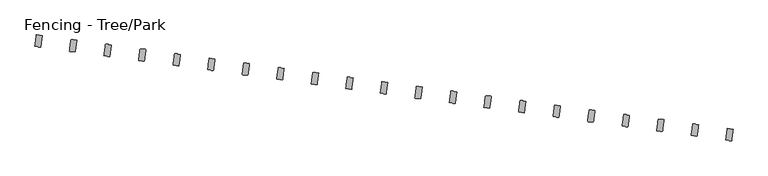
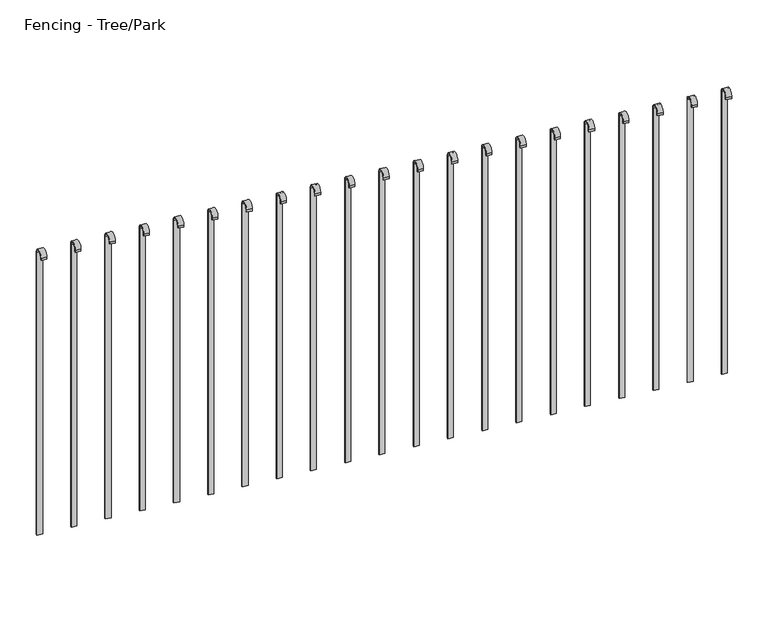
"""IFC4 building model written with IfcOpenShell, lengths in millimetres: railing geometry, Fencing - Tree/Park."""

import ifcopenshell
import ifcopenshell.guid

model = None  # the IFC model being written
_history = None  # IfcOwnerHistory: only IFC2X3 demands one
_inside = {}  # id of a spatial element -> (the spatial element, [elements in it])
_under = {}  # id of a project, library or spatial element -> (it, [spatial elements below it])
_declared = {}  # id of a project -> (the project, [libraries it declares])
_typed = {}  # id of a type object -> (the type object, [elements of that type])
_made_of = {}  # id of a material, layer set ... -> (it, [elements and type objects made of it])


def new_model(schema):
    """Start an empty IFC model of exactly this schema.

    Asked for "IFC4X3", IfcOpenShell would pick the latest addendum, in which some entities
    have other attributes; the version numbers below select the first issue.
    IFC2X3 requires an IfcOwnerHistory on every rooted entity: one is made here for all.
    """
    global model, _history
    if schema == "IFC4X3":
        model = ifcopenshell.file(schema_version=(4, 3, 0, 0))
    else:
        model = ifcopenshell.file(schema=schema)
    _inside.clear()
    _under.clear()
    _declared.clear()
    _typed.clear()
    _made_of.clear()
    _history = None
    if model.schema == "IFC2X3":
        org = make("IfcOrganization", Name="unknown")
        user = make(
            "IfcPersonAndOrganization",
            ThePerson=make("IfcPerson", FamilyName="unknown"),
            TheOrganization=org,
        )
        app = make(
            "IfcApplication",
            ApplicationDeveloper=org,
            Version="unknown",
            ApplicationFullName="unknown",
            ApplicationIdentifier="unknown",
        )
        _history = make(
            "IfcOwnerHistory",
            OwningUser=user,
            OwningApplication=app,
            ChangeAction="ADDED",
            CreationDate=0,
        )
    return model


def make(cls, **values):
    """One entity of the class cls with the attributes given. An attribute that is None is left unset."""
    return model.create_entity(
        cls, **{name: value for name, value in values.items() if value is not None}
    )


def rooted(cls, **values):
    """An entity with a GlobalId (a new one), such as an element, a storey or a relation."""
    return make(cls, GlobalId=ifcopenshell.guid.new(), OwnerHistory=_history, **values)


def si_unit(unit_type, name, prefix=None):
    """IfcSIUnit, for example si_unit("LENGTHUNIT", "METRE", prefix="MILLI")."""
    return make("IfcSIUnit", UnitType=unit_type, Prefix=prefix, Name=name)


def assignment(units):
    """IfcUnitAssignment: the units of a project."""
    return None if units is None else make("IfcUnitAssignment", Units=units)


def point(xyz):
    """IfcCartesianPoint."""
    return None if xyz is None else make("IfcCartesianPoint", Coordinates=xyz)


def direction(xyz):
    """IfcDirection."""
    return None if xyz is None else make("IfcDirection", DirectionRatios=xyz)


def frame(location, z_axis=None, x_axis=None):
    """IfcAxis2Placement3D, a coordinate frame: its origin and axes. An axis left out is left unset."""
    return make(
        "IfcAxis2Placement3D",
        Location=point(location),
        Axis=direction(z_axis),
        RefDirection=direction(x_axis),
    )


def frame_2d(location, x_axis=None):
    """IfcAxis2Placement2D, a coordinate frame in the plane: its origin and x axis."""
    return make(
        "IfcAxis2Placement2D", Location=point(location), RefDirection=direction(x_axis)
    )


def origin():
    """The frame at (0, 0, 0) with its axes left unset."""
    return frame((0.0, 0.0, 0.0))


def place(relative_to, where):
    """IfcLocalPlacement: puts the frame where relative to a parent placement (None: the world)."""
    return make(
        "IfcLocalPlacement", PlacementRelTo=relative_to, RelativePlacement=where
    )


def context(
    kind, dimensions, precision=None, world=None, true_north=None, identifier=None
):
    """IfcGeometricRepresentationContext, for example the 3D "Model" context."""
    return make(
        "IfcGeometricRepresentationContext",
        ContextIdentifier=identifier,
        ContextType=kind,
        CoordinateSpaceDimension=dimensions,
        Precision=precision,
        WorldCoordinateSystem=world,
        TrueNorth=true_north,
    )


def project(units=None, contexts=None):
    """IfcProject with its units and contexts."""
    return rooted(
        "IfcProject",
        Name="project",
        RepresentationContexts=contexts,
        UnitsInContext=assignment(units),
    )


def spatial(cls, under=None, at=None, **own):
    """A site, building, storey or space (cls), placed at a placement, below another one or the project."""
    s = rooted(cls, ObjectPlacement=at, **own)
    if under is not None:
        _under.setdefault(under.id(), (under, []))[1].append(s)
    return s


def polyline(points):
    """IfcPolyline through the points."""
    return make("IfcPolyline", Points=[point(p) for p in points])


def circle_curve(where, radius):
    """IfcCircle in the frame where."""
    return make("IfcCircle", Position=where, Radius=radius)


def trimmed(basis, trim1, trim2, sense, master):
    """IfcTrimmedCurve: the piece of a basis curve between two trims."""
    return make(
        "IfcTrimmedCurve",
        BasisCurve=basis,
        Trim1=trim1,
        Trim2=trim2,
        SenseAgreement=sense,
        MasterRepresentation=master,
    )


def segment(curve, same_sense, transition):
    """IfcCompositeCurveSegment."""
    return make(
        "IfcCompositeCurveSegment",
        Transition=transition,
        SameSense=same_sense,
        ParentCurve=curve,
    )


def composite_curve(segments, self_intersect=None):
    """IfcCompositeCurve: segments joined end to end."""
    return make("IfcCompositeCurve", Segments=segments, SelfIntersect=self_intersect)


def outline(outer, holes=None, kind="AREA"):
    """IfcArbitraryClosedProfileDef: a profile drawn as a closed curve; with holes, ...WithVoids."""
    if holes is None:
        return make("IfcArbitraryClosedProfileDef", ProfileType=kind, OuterCurve=outer)
    return make(
        "IfcArbitraryProfileDefWithVoids",
        ProfileType=kind,
        OuterCurve=outer,
        InnerCurves=holes,
    )


def extrude(swept, where, along, depth):
    """IfcExtrudedAreaSolid: the profile swept, set in the frame where, extruded along a direction by depth."""
    return make(
        "IfcExtrudedAreaSolid",
        SweptArea=swept,
        Position=where,
        ExtrudedDirection=direction(along),
        Depth=depth,
    )


def shape(context_of_items, identifier, shape_type, items):
    """IfcShapeRepresentation: the items that make up one representation, for example the "Body"."""
    return make(
        "IfcShapeRepresentation",
        ContextOfItems=context_of_items,
        RepresentationIdentifier=identifier,
        RepresentationType=shape_type,
        Items=items,
    )


def source(mapping_origin, context_of_items, identifier, shape_type, items):
    """IfcRepresentationMap: a shape defined once, which mapped items show again and again."""
    return make(
        "IfcRepresentationMap",
        MappingOrigin=mapping_origin,
        MappedRepresentation=shape(context_of_items, identifier, shape_type, items),
    )


def transform(
    local_origin,
    x_axis=None,
    y_axis=None,
    z_axis=None,
    scale=None,
    scale2=None,
    scale3=None,
    uniform=True,
):
    """IfcCartesianTransformationOperator3D, or its non-uniform kind. x_axis, y_axis, z_axis: its Axis1, 2, 3."""
    if uniform:
        return make(
            "IfcCartesianTransformationOperator3D",
            Axis1=direction(x_axis),
            Axis2=direction(y_axis),
            LocalOrigin=point(local_origin),
            Scale=scale,
            Axis3=direction(z_axis),
        )
    return make(
        "IfcCartesianTransformationOperator3DnonUniform",
        Axis1=direction(x_axis),
        Axis2=direction(y_axis),
        LocalOrigin=point(local_origin),
        Scale=scale,
        Axis3=direction(z_axis),
        Scale2=scale2,
        Scale3=scale3,
    )


def mapped(mapping_source, mapping_target):
    """IfcMappedItem: shows the shape of a source again, moved by a transform."""
    return make(
        "IfcMappedItem", MappingSource=mapping_source, MappingTarget=mapping_target
    )


def made_of(thing, what):
    """Note that an element or type object is made of a material, layer set ...; save() writes the relation."""
    if what is not None:
        _made_of.setdefault(what.id(), (what, []))[1].append(thing)
    return thing


def element(
    cls,
    number,
    at=None,
    inside=None,
    cuts=None,
    type_object=None,
    material=None,
    context=None,
    identifier="Body",
    shape_type=None,
    held_by="IfcProductDefinitionShape",
    body=None,
    shapes=None,
    **own,
):
    """One element of the class cls, such as IfcWall. Its Tag is "e" and its number.

    at: its placement. inside: the storey or other place that contains it. cuts: it is an
    opening in that element (IfcRelVoidsElement). A single representation is given by context,
    identifier, shape_type and body (its items); several are given by shapes. held_by: the class
    of the entity that holds the representations. save() writes the other relations.
    """
    e = rooted(cls, Tag="e%d" % number, ObjectPlacement=at, **own)
    if body is not None:
        shapes = [shape(context, identifier, shape_type, body)]
    if shapes is not None:
        e.Representation = make(held_by, Representations=shapes)
    if inside is not None:
        _inside.setdefault(inside.id(), (inside, []))[1].append(e)
    if cuts is not None:
        rooted(
            "IfcRelVoidsElement", RelatingBuildingElement=cuts, RelatedOpeningElement=e
        )
    if type_object is not None:
        _typed.setdefault(type_object.id(), (type_object, []))[1].append(e)
    return made_of(e, material)


def aggregate(whole, parts):
    """IfcRelAggregates: a whole, such as a stair, and the parts it consists of."""
    return rooted("IfcRelAggregates", RelatingObject=whole, RelatedObjects=parts)


def save(model, path):
    """Write the relations noted so far, then the file.

    IfcRelAggregates (storeys below a building ...), IfcRelContainedInSpatialStructure (elements
    in a storey), IfcRelDefinesByType, IfcRelAssociatesMaterial and IfcRelDeclares: one each for
    every whole, place, type object, material and project.
    """
    for whole, parts in _under.values():
        aggregate(whole, parts)
    for where, things in _inside.values():
        rooted(
            "IfcRelContainedInSpatialStructure",
            RelatedElements=things,
            RelatingStructure=where,
        )
    for kind, things in _typed.values():
        rooted("IfcRelDefinesByType", RelatedObjects=things, RelatingType=kind)
    for what, things in _made_of.values():
        rooted("IfcRelAssociatesMaterial", RelatedObjects=things, RelatingMaterial=what)
    for by, libraries in _declared.values():
        rooted("IfcRelDeclares", RelatingContext=by, RelatedDefinitions=libraries)
    model.write(path)


def fencing_tree_park_3937f9b8(model_context):
    return source(origin(), model_context, "Body", "SweptSolid", [
        extrude(outline(composite_curve([segment(trimmed(circle_curve(frame_2d((1400.0, -25.0000001)), 25.0), [point((1400.0, 0.0))], [point((1400.0, -50.0))], False, "CARTESIAN"), True, "CONTINUOUS"), segment(polyline([(1400.0, -50.0), (1390.0, -50.0), (1390.0, -45.0), (1400.0, -45.0)]), True, "CONTINUOUS"), segment(trimmed(circle_curve(frame_2d((1400.0, -25.0000001)), 20.0), [point((1400.0, -45.0))], [point((1400.0, -5.0))], True, "CARTESIAN"), True, "CONTINUOUS"), segment(polyline([(1400.0, -5.0), (0.0, -5.0), (0.0, 0.0), (1400.0, 0.0)]), True, "CONTINUOUS")], self_intersect=False)), frame((-9960.9370364, 12050.828764, 2850.0), z_axis=(-0.9908613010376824, 0.13488469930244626, 0.0), x_axis=(0.0, 0.0, 1.0)), (0.0, 0.0, 1.0), 25.0),
        extrude(outline(composite_curve([segment(trimmed(circle_curve(frame_2d((1400.0, -25.0)), 25.0), [point((1400.0, 0.0))], [point((1400.0, -50.0000001))], False, "CARTESIAN"), True, "CONTINUOUS"), segment(polyline([(1400.0, -50.0000001), (1390.0, -50.0000001), (1390.0, -45.0000001), (1400.0, -45.0000001)]), True, "CONTINUOUS"), segment(trimmed(circle_curve(frame_2d((1400.0, -25.0)), 20.0), [point((1400.0, -45.0000001))], [point((1400.0, -5.0))], True, "CARTESIAN"), True, "CONTINUOUS"), segment(polyline([(1400.0, -5.0), (0.0, -5.0), (0.0, 0.0), (1400.0, 0.0)]), True, "CONTINUOUS")], self_intersect=False)), frame((-9812.3078412, 12030.5960591, 2850.0), z_axis=(-0.9908613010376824, 0.13488469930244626, 0.0), x_axis=(0.0, 0.0, 1.0)), (0.0, 0.0, 1.0), 25.0),
        extrude(outline(composite_curve([segment(trimmed(circle_curve(frame_2d((1400.0, -25.0)), 25.0), [point((1400.0, 0.0))], [point((1400.0, -50.0000001))], False, "CARTESIAN"), True, "CONTINUOUS"), segment(polyline([(1400.0, -50.0000001), (1390.0, -50.0000001), (1390.0, -45.0000001), (1400.0, -45.0000001)]), True, "CONTINUOUS"), segment(trimmed(circle_curve(frame_2d((1400.0, -25.0)), 20.0), [point((1400.0, -45.0000001))], [point((1400.0, -5.0))], True, "CARTESIAN"), True, "CONTINUOUS"), segment(polyline([(1400.0, -5.0), (0.0, -5.0), (0.0, 0.0), (1400.0, 0.0)]), True, "CONTINUOUS")], self_intersect=False)), frame((-9663.678646, 12010.3633542, 2850.0), z_axis=(-0.9908613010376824, 0.13488469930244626, 0.0), x_axis=(0.0, 0.0, 1.0)), (0.0, 0.0, 1.0), 25.0),
        extrude(outline(composite_curve([segment(trimmed(circle_curve(frame_2d((1400.0, -25.0)), 25.0), [point((1400.0, 0.0))], [point((1400.0, -50.0000001))], False, "CARTESIAN"), True, "CONTINUOUS"), segment(polyline([(1400.0, -50.0000001), (1390.0, -50.0000001), (1390.0, -45.0000001), (1400.0, -45.0000001)]), True, "CONTINUOUS"), segment(trimmed(circle_curve(frame_2d((1400.0, -25.0)), 20.0), [point((1400.0, -45.0000001))], [point((1400.0, -5.0))], True, "CARTESIAN"), True, "CONTINUOUS"), segment(polyline([(1400.0, -5.0), (0.0, -5.0), (0.0, 0.0), (1400.0, 0.0)]), True, "CONTINUOUS")], self_intersect=False)), frame((-9515.0494509, 11990.1306493, 2850.0), z_axis=(-0.9908613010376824, 0.13488469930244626, 0.0), x_axis=(0.0, 0.0, 1.0)), (0.0, 0.0, 1.0), 25.0),
        extrude(outline(composite_curve([segment(trimmed(circle_curve(frame_2d((1400.0, -25.0)), 25.0), [point((1400.0, 0.0))], [point((1400.0, -50.0000001))], False, "CARTESIAN"), True, "CONTINUOUS"), segment(polyline([(1400.0, -50.0000001), (1390.0, -50.0000001), (1390.0, -45.0000001), (1400.0, -45.0000001)]), True, "CONTINUOUS"), segment(trimmed(circle_curve(frame_2d((1400.0, -25.0)), 20.0), [point((1400.0, -45.0000001))], [point((1400.0, -5.0))], True, "CARTESIAN"), True, "CONTINUOUS"), segment(polyline([(1400.0, -5.0), (0.0, -5.0), (0.0, 0.0), (1400.0, 0.0)]), True, "CONTINUOUS")], self_intersect=False)), frame((-9366.4202557, 11969.8979444, 2850.0), z_axis=(-0.9908613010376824, 0.13488469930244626, 0.0), x_axis=(0.0, 0.0, 1.0)), (0.0, 0.0, 1.0), 25.0),
        extrude(outline(composite_curve([segment(trimmed(circle_curve(frame_2d((1400.0, -25.0)), 25.0), [point((1400.0, 0.0))], [point((1400.0, -50.0))], False, "CARTESIAN"), True, "CONTINUOUS"), segment(polyline([(1400.0, -50.0), (1390.0, -50.0), (1390.0, -45.0), (1400.0, -45.0)]), True, "CONTINUOUS"), segment(trimmed(circle_curve(frame_2d((1400.0, -25.0)), 20.0), [point((1400.0, -45.0))], [point((1400.0, -5.0))], True, "CARTESIAN"), True, "CONTINUOUS"), segment(polyline([(1400.0, -5.0), (0.0, -5.0), (0.0, 0.0), (1400.0, 0.0)]), True, "CONTINUOUS")], self_intersect=False)), frame((-9217.7910606, 11949.6652395, 2850.0), z_axis=(-0.9908613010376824, 0.13488469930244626, 0.0), x_axis=(0.0, 0.0, 1.0)), (0.0, 0.0, 1.0), 25.0),
        extrude(outline(composite_curve([segment(trimmed(circle_curve(frame_2d((1400.0, -25.0)), 25.0), [point((1400.0, 0.0))], [point((1400.0, -50.0000001))], False, "CARTESIAN"), True, "CONTINUOUS"), segment(polyline([(1400.0, -50.0000001), (1390.0, -50.0000001), (1390.0, -45.0), (1400.0, -45.0)]), True, "CONTINUOUS"), segment(trimmed(circle_curve(frame_2d((1400.0, -25.0)), 20.0), [point((1400.0, -45.0))], [point((1400.0, -5.0))], True, "CARTESIAN"), True, "CONTINUOUS"), segment(polyline([(1400.0, -5.0), (0.0, -5.0), (0.0, 0.0), (1400.0, 0.0)]), True, "CONTINUOUS")], self_intersect=False)), frame((-9069.1618654, 11929.4325346, 2850.0), z_axis=(-0.9908613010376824, 0.13488469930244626, 0.0), x_axis=(0.0, 0.0, 1.0)), (0.0, 0.0, 1.0), 25.0),
        extrude(outline(composite_curve([segment(trimmed(circle_curve(frame_2d((1400.0, -25.0)), 25.0), [point((1400.0, 0.0))], [point((1400.0, -49.9999999))], False, "CARTESIAN"), True, "CONTINUOUS"), segment(polyline([(1400.0, -49.9999999), (1390.0, -49.9999999), (1390.0, -44.9999999), (1400.0, -44.9999999)]), True, "CONTINUOUS"), segment(trimmed(circle_curve(frame_2d((1400.0, -25.0)), 20.0), [point((1400.0, -44.9999999))], [point((1400.0, -5.0))], True, "CARTESIAN"), True, "CONTINUOUS"), segment(polyline([(1400.0, -5.0), (0.0, -5.0), (0.0, 0.0), (1400.0, 0.0)]), True, "CONTINUOUS")], self_intersect=False)), frame((-8920.5326703, 11909.1998297, 2850.0), z_axis=(-0.9908613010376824, 0.13488469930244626, 0.0), x_axis=(0.0, 0.0, 1.0)), (0.0, 0.0, 1.0), 25.0),
        extrude(outline(composite_curve([segment(trimmed(circle_curve(frame_2d((1400.0, -25.0)), 25.0), [point((1400.0, 0.0))], [point((1400.0, -50.0))], False, "CARTESIAN"), True, "CONTINUOUS"), segment(polyline([(1400.0, -50.0), (1390.0, -50.0), (1390.0, -45.0), (1400.0, -45.0)]), True, "CONTINUOUS"), segment(trimmed(circle_curve(frame_2d((1400.0, -25.0)), 20.0), [point((1400.0, -45.0))], [point((1400.0, -5.0))], True, "CARTESIAN"), True, "CONTINUOUS"), segment(polyline([(1400.0, -5.0), (0.0, -5.0), (0.0, 0.0), (1400.0, 0.0)]), True, "CONTINUOUS")], self_intersect=False)), frame((-8771.9034751, 11888.9671248, 2850.0), z_axis=(-0.9908613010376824, 0.13488469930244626, 0.0), x_axis=(0.0, 0.0, 1.0)), (0.0, 0.0, 1.0), 25.0),
        extrude(outline(composite_curve([segment(trimmed(circle_curve(frame_2d((1400.0, -25.0)), 25.0), [point((1400.0, 0.0))], [point((1400.0, -49.9999999))], False, "CARTESIAN"), True, "CONTINUOUS"), segment(polyline([(1400.0, -49.9999999), (1390.0, -49.9999999), (1390.0, -44.9999999), (1400.0, -44.9999999)]), True, "CONTINUOUS"), segment(trimmed(circle_curve(frame_2d((1400.0, -25.0)), 20.0), [point((1400.0, -44.9999999))], [point((1400.0, -5.0))], True, "CARTESIAN"), True, "CONTINUOUS"), segment(polyline([(1400.0, -5.0), (0.0, -5.0), (0.0, 0.0), (1400.0, 0.0)]), True, "CONTINUOUS")], self_intersect=False)), frame((-8623.27428, 11868.7344199, 2850.0), z_axis=(-0.9908613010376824, 0.13488469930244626, 0.0), x_axis=(0.0, 0.0, 1.0)), (0.0, 0.0, 1.0), 25.0),
        extrude(outline(composite_curve([segment(trimmed(circle_curve(frame_2d((1400.0, -25.0)), 25.0), [point((1400.0, 0.0))], [point((1400.0, -50.0))], False, "CARTESIAN"), True, "CONTINUOUS"), segment(polyline([(1400.0, -50.0), (1390.0, -50.0), (1390.0, -45.0), (1400.0, -45.0)]), True, "CONTINUOUS"), segment(trimmed(circle_curve(frame_2d((1400.0, -25.0)), 20.0), [point((1400.0, -45.0))], [point((1400.0, -5.0))], True, "CARTESIAN"), True, "CONTINUOUS"), segment(polyline([(1400.0, -5.0), (0.0, -5.0), (0.0, 0.0), (1400.0, 0.0)]), True, "CONTINUOUS")], self_intersect=False)), frame((-8474.6450848, 11848.501715, 2850.0), z_axis=(-0.9908613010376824, 0.13488469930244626, 0.0), x_axis=(0.0, 0.0, 1.0)), (0.0, 0.0, 1.0), 25.0),
        extrude(outline(composite_curve([segment(trimmed(circle_curve(frame_2d((1400.0, -25.0)), 25.0), [point((1400.0, 0.0))], [point((1400.0, -50.0))], False, "CARTESIAN"), True, "CONTINUOUS"), segment(polyline([(1400.0, -50.0), (1390.0, -50.0), (1390.0, -45.0), (1400.0, -45.0)]), True, "CONTINUOUS"), segment(trimmed(circle_curve(frame_2d((1400.0, -25.0)), 20.0), [point((1400.0, -45.0))], [point((1400.0, -5.0))], True, "CARTESIAN"), True, "CONTINUOUS"), segment(polyline([(1400.0, -5.0), (0.0, -5.0), (0.0, 0.0), (1400.0, 0.0)]), True, "CONTINUOUS")], self_intersect=False)), frame((-8326.0158896, 11828.2690101, 2850.0), z_axis=(-0.9908613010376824, 0.13488469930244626, 0.0), x_axis=(0.0, 0.0, 1.0)), (0.0, 0.0, 1.0), 25.0),
        extrude(outline(composite_curve([segment(trimmed(circle_curve(frame_2d((1400.0, -25.0)), 25.0), [point((1400.0, 0.0))], [point((1400.0, -50.0))], False, "CARTESIAN"), True, "CONTINUOUS"), segment(polyline([(1400.0, -50.0), (1390.0, -50.0), (1390.0, -45.0), (1400.0, -45.0)]), True, "CONTINUOUS"), segment(trimmed(circle_curve(frame_2d((1400.0, -25.0)), 20.0), [point((1400.0, -45.0))], [point((1400.0, -5.0))], True, "CARTESIAN"), True, "CONTINUOUS"), segment(polyline([(1400.0, -5.0), (0.0, -5.0), (0.0, 0.0), (1400.0, 0.0)]), True, "CONTINUOUS")], self_intersect=False)), frame((-8177.3866945, 11808.0363052, 2850.0), z_axis=(-0.9908613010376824, 0.13488469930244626, 0.0), x_axis=(0.0, 0.0, 1.0)), (0.0, 0.0, 1.0), 25.0),
        extrude(outline(composite_curve([segment(trimmed(circle_curve(frame_2d((1400.0, -25.0)), 25.0), [point((1400.0, 0.0))], [point((1400.0, -50.0))], False, "CARTESIAN"), True, "CONTINUOUS"), segment(polyline([(1400.0, -50.0), (1390.0, -50.0), (1390.0, -45.0), (1400.0, -45.0)]), True, "CONTINUOUS"), segment(trimmed(circle_curve(frame_2d((1400.0, -25.0)), 20.0), [point((1400.0, -45.0))], [point((1400.0, -5.0))], True, "CARTESIAN"), True, "CONTINUOUS"), segment(polyline([(1400.0, -5.0), (0.0, -5.0), (0.0, 0.0), (1400.0, 0.0)]), True, "CONTINUOUS")], self_intersect=False)), frame((-8028.7574993, 11787.8036003, 2850.0), z_axis=(-0.9908613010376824, 0.13488469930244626, 0.0), x_axis=(0.0, 0.0, 1.0)), (0.0, 0.0, 1.0), 25.0),
        extrude(outline(composite_curve([segment(trimmed(circle_curve(frame_2d((1400.0, -25.0)), 25.0), [point((1400.0, 0.0))], [point((1400.0, -49.9999999))], False, "CARTESIAN"), True, "CONTINUOUS"), segment(polyline([(1400.0, -49.9999999), (1390.0, -49.9999999), (1390.0, -44.9999999), (1400.0, -44.9999999)]), True, "CONTINUOUS"), segment(trimmed(circle_curve(frame_2d((1400.0, -25.0)), 20.0), [point((1400.0, -44.9999999))], [point((1400.0, -5.0))], True, "CARTESIAN"), True, "CONTINUOUS"), segment(polyline([(1400.0, -5.0), (0.0, -5.0), (0.0, 0.0), (1400.0, 0.0)]), True, "CONTINUOUS")], self_intersect=False)), frame((-7880.1283042, 11767.5708954, 2850.0), z_axis=(-0.9908613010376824, 0.13488469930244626, 0.0), x_axis=(0.0, 0.0, 1.0)), (0.0, 0.0, 1.0), 25.0),
        extrude(outline(composite_curve([segment(trimmed(circle_curve(frame_2d((1400.0, -25.0)), 25.0), [point((1400.0, 0.0))], [point((1400.0, -50.0))], False, "CARTESIAN"), True, "CONTINUOUS"), segment(polyline([(1400.0, -50.0), (1390.0, -50.0), (1390.0, -45.0), (1400.0, -45.0)]), True, "CONTINUOUS"), segment(trimmed(circle_curve(frame_2d((1400.0, -25.0)), 20.0), [point((1400.0, -45.0))], [point((1400.0, -5.0))], True, "CARTESIAN"), True, "CONTINUOUS"), segment(polyline([(1400.0, -5.0), (0.0, -5.0), (0.0, 0.0), (1400.0, 0.0)]), True, "CONTINUOUS")], self_intersect=False)), frame((-7731.499109, 11747.3381905, 2850.0), z_axis=(-0.9908613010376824, 0.13488469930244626, 0.0), x_axis=(0.0, 0.0, 1.0)), (0.0, 0.0, 1.0), 25.0),
        extrude(outline(composite_curve([segment(trimmed(circle_curve(frame_2d((1400.0, -25.0)), 25.0), [point((1400.0, 0.0))], [point((1400.0, -49.9999999))], False, "CARTESIAN"), True, "CONTINUOUS"), segment(polyline([(1400.0, -49.9999999), (1390.0, -49.9999999), (1390.0, -44.9999999), (1400.0, -44.9999999)]), True, "CONTINUOUS"), segment(trimmed(circle_curve(frame_2d((1400.0, -25.0)), 20.0), [point((1400.0, -44.9999999))], [point((1400.0, -5.0))], True, "CARTESIAN"), True, "CONTINUOUS"), segment(polyline([(1400.0, -5.0), (0.0, -5.0), (0.0, 0.0), (1400.0, 0.0)]), True, "CONTINUOUS")], self_intersect=False)), frame((-7582.8699139, 11727.1054856, 2850.0), z_axis=(-0.9908613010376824, 0.13488469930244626, 0.0), x_axis=(0.0, 0.0, 1.0)), (0.0, 0.0, 1.0), 25.0),
        extrude(outline(composite_curve([segment(trimmed(circle_curve(frame_2d((1400.0, -25.0000001)), 25.0), [point((1400.0, 0.0))], [point((1400.0, -50.0000001))], False, "CARTESIAN"), True, "CONTINUOUS"), segment(polyline([(1400.0, -50.0000001), (1390.0, -50.0000001), (1390.0, -45.0000001), (1400.0, -45.0000001)]), True, "CONTINUOUS"), segment(trimmed(circle_curve(frame_2d((1400.0, -25.0000001)), 20.0), [point((1400.0, -45.0000001))], [point((1400.0, -5.0000001))], True, "CARTESIAN"), True, "CONTINUOUS"), segment(polyline([(1400.0, -5.0000001), (0.0, -5.0000001), (0.0, 0.0), (1400.0, 0.0)]), True, "CONTINUOUS")], self_intersect=False)), frame((-7434.2407187, 11706.8727808, 2850.0), z_axis=(-0.9908613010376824, 0.13488469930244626, 0.0), x_axis=(0.0, 0.0, 1.0)), (0.0, 0.0, 1.0), 25.0),
        extrude(outline(composite_curve([segment(trimmed(circle_curve(frame_2d((1400.0, -25.0000001)), 25.0), [point((1400.0, 0.0))], [point((1400.0, -50.0))], False, "CARTESIAN"), True, "CONTINUOUS"), segment(polyline([(1400.0, -50.0), (1390.0, -50.0), (1390.0, -45.0), (1400.0, -45.0)]), True, "CONTINUOUS"), segment(trimmed(circle_curve(frame_2d((1400.0, -25.0000001)), 20.0), [point((1400.0, -45.0))], [point((1400.0, -5.0))], True, "CARTESIAN"), True, "CONTINUOUS"), segment(polyline([(1400.0, -5.0), (0.0, -5.0), (0.0, 0.0), (1400.0, 0.0)]), True, "CONTINUOUS")], self_intersect=False)), frame((-7285.6115236, 11686.6400759, 2850.0), z_axis=(-0.9908613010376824, 0.13488469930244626, 0.0), x_axis=(0.0, 0.0, 1.0)), (0.0, 0.0, 1.0), 25.0),
        extrude(outline(composite_curve([segment(trimmed(circle_curve(frame_2d((1400.0, -25.0000001)), 25.0), [point((1400.0, 0.0))], [point((1400.0, -50.0000001))], False, "CARTESIAN"), True, "CONTINUOUS"), segment(polyline([(1400.0, -50.0000001), (1390.0, -50.0000001), (1390.0, -45.0000001), (1400.0, -45.0000001)]), True, "CONTINUOUS"), segment(trimmed(circle_curve(frame_2d((1400.0, -25.0000001)), 20.0), [point((1400.0, -45.0000001))], [point((1400.0, -5.0))], True, "CARTESIAN"), True, "CONTINUOUS"), segment(polyline([(1400.0, -5.0), (0.0, -5.0), (0.0, 0.0), (1400.0, 0.0)]), True, "CONTINUOUS")], self_intersect=False)), frame((-7136.9823284, 11666.407371, 2850.0), z_axis=(-0.9908613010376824, 0.13488469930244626, 0.0), x_axis=(0.0, 0.0, 1.0)), (0.0, 0.0, 1.0), 25.0),
        extrude(outline(composite_curve([segment(trimmed(circle_curve(frame_2d((1400.0, -25.0000001)), 25.0), [point((1400.0, 0.0))], [point((1400.0, -50.0000001))], False, "CARTESIAN"), True, "CONTINUOUS"), segment(polyline([(1400.0, -50.0000001), (1390.0, -50.0000001), (1390.0, -45.0000001), (1400.0, -45.0000001)]), True, "CONTINUOUS"), segment(trimmed(circle_curve(frame_2d((1400.0, -25.0000001)), 20.0), [point((1400.0, -45.0000001))], [point((1400.0, -5.0))], True, "CARTESIAN"), True, "CONTINUOUS"), segment(polyline([(1400.0, -5.0), (0.0, -5.0), (0.0, 0.0), (1400.0, 0.0)]), True, "CONTINUOUS")], self_intersect=False)), frame((-6988.3531332, 11646.1746661, 2850.0), z_axis=(-0.9908613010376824, 0.13488469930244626, 0.0), x_axis=(0.0, 0.0, 1.0)), (0.0, 0.0, 1.0), 25.0),
    ])


if __name__ == "__main__":
    model = new_model("IFC4")
    model_context = context("Model", 3, world=origin())
    ifc_project = project(units=[si_unit("LENGTHUNIT", "METRE", prefix="MILLI")], contexts=[model_context])
    site = spatial("IfcSite", under=ifc_project)
    building = spatial("IfcBuilding", under=site)
    placement = place(None, origin())
    fencing_tree_park_shape = fencing_tree_park_3937f9b8(model_context)
    element("IfcRailing", 1, ObjectType="Fencing - Tree/Park", at=placement, inside=building, context=model_context, shape_type="MappedRepresentation", body=[
        mapped(fencing_tree_park_shape, transform((0.0, 0.0, 0.0), x_axis=(1.0, 0.0, 0.0), y_axis=(0.0, 1.0, 0.0), z_axis=(0.0, 0.0, 1.0))),
    ])
    save(model, "model.ifc")
